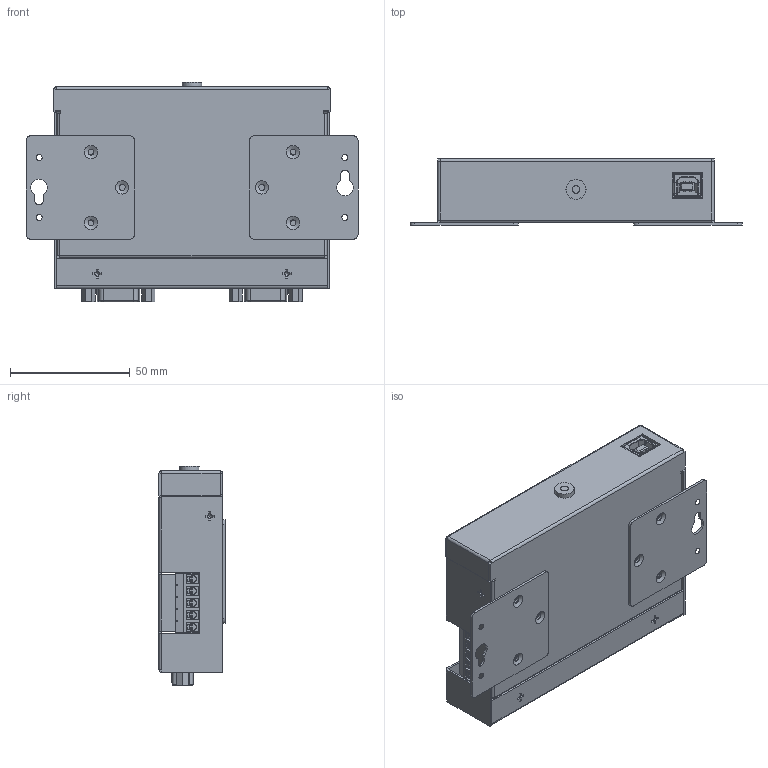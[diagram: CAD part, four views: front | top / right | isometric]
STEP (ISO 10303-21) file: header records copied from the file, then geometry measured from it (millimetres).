
FILE_DESCRIPTION(/* description */ (''),/* implementation_level */ '2;1');
FILE_NAME(/* name */ 'C:/Users/Leo Pinto/Documents/Fusion 360/USB-2COMI PRO Model3D LPV1.step',/* time_stamp */ '2021-11-12T17:13:42-05:00',/* author */ (''),/* organization */ (''),/* preprocessor_version */ 'ST-DEVELOPER v18.1',/* originating_system */ 'Autodesk Translation Framework v10.10.0.1391',/* authorisation */ '');
FILE_SCHEMA (('AUTOMOTIVE_DESIGN { 1 0 10303 214 3 1 1 }'));
Products named in the file (49): USB-2COMI PRO; Component1; 93090A548_Press-Fit Threaded Standoffs; 93090A547_Press-Fit Threaded Standoffs; Component3; USB type B first Gen White v3; Housing1; pin1; shielding; pin2; shielding_2; Housing3; Terminal 5 holes srew v1; Serial Port v1; Terminal 5 holes srew v1(Mirror); Serial Port v1(Mirror); Bolt M3X0.5 90Angle head.5-4mmL v1; LED 3mm v5; 3mm_LED; led_energy (1); led_pin.1.1.1 (1); led_pin.2.1 (1); LED 3mm v5_1; 3mm_LED_1; led_energy (1)_1; led_energy; led_pin.1.1.1 (1)_1; led_pin.1.1.1; led_pin.2.1 (1)_1; led_pin.2.1; 3mm_LED (1); led_energy (1) (1); led_pin.1.1.1 (1) (1); led_pin.2.1 (1) (1); 3mm_LED (1)_1; led_energy (1) (1)_1; led_energy (2); led_pin.1.1.1 (1) (1)_1; led_pin.1.1.1 (2); led_pin.2.1 (1) (1)_1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
Assembly tree (62 placements, depth 5):
  USB-2COMI PRO
    Component1
      93090A548_Press-Fit Threaded Standoffs  x2
      93090A547_Press-Fit Threaded Standoffs
    Component3
    USB type B first Gen White v3
      Housing1
      pin1  x2
      shielding
      pin2  x2
      shielding_2
      Housing3
    Terminal 5 holes srew v1
    Serial Port v1
    Terminal 5 holes srew v1(Mirror)
    Serial Port v1(Mirror)
    Bolt M3X0.5 90Angle head.5-4mmL v1  x5
    LED 3mm v5
      3mm_LED
        led_energy (1)
          led_energy
        led_pin.1.1.1 (1)
          led_pin.1.1.1
        led_pin.2.1 (1)
          led_pin.2.1
    LED 3mm v5_1
      3mm_LED_1
        led_energy (1)_1
          led_energy
        led_pin.1.1.1 (1)_1
          led_pin.1.1.1
        led_pin.2.1 (1)_1
          led_pin.2.1
    3mm_LED (1)
      led_energy (1) (1)
        led_energy (2)
      led_pin.1.1.1 (1) (1)
        led_pin.1.1.1 (2)
      led_pin.2.1 (1) (1)
        led_pin.2.1 (2)
    3mm_LED (1)_1
      led_energy (1) (1)_1
        led_energy (2)
      led_pin.1.1.1 (1) (1)_1
        led_pin.1.1.1 (2)
      led_pin.2.1 (1) (1)_1
        led_pin.2.1 (2)
    led_energy (1) (2)
      led_energy (3)
    led_pin.1.1.1 (1) (2)
      led_pin.1.1.1 (3)
    led_pin.2.1 (1) (2)
      led_pin.2.1 (3)
    Mounting plate SideR v3  x2
    Component44
Bounding box: 138.6 x 27.63 x 91.77 mm (x, y, z)
Volume: 61175.9 mm3; surface area: 103201.5 mm2
Topology: 5 solids, 6 shells, 2648 faces, 7148 edges, 4563 vertices
Faces by surface type: plane 1663, cylinder 691, torus 100, bspline 74, cone 68, sphere 52
Full cylindrical faces by diameter (mm): 1 x48, 1.5 x20, 2.323 x15, 2.35 x16, 2.529 x16, 2.6 x4, 2.8 x14, 2.998 x5, 3 x34, 3.203 x1, 3.223 x1, 3.3 x10, 3.5 x13, 3.643 x5, 4.765 x1, 5.4 x3, 8.223 x1, 8.36 x1
Entity records: 100003 total; most frequent: CARTESIAN_POINT 32718, ORIENTED_EDGE 14116, DIRECTION 13358, EDGE_CURVE 7058, LINE 5062, VECTOR 5062, VERTEX_POINT 4524, AXIS2_PLACEMENT_3D 4148
